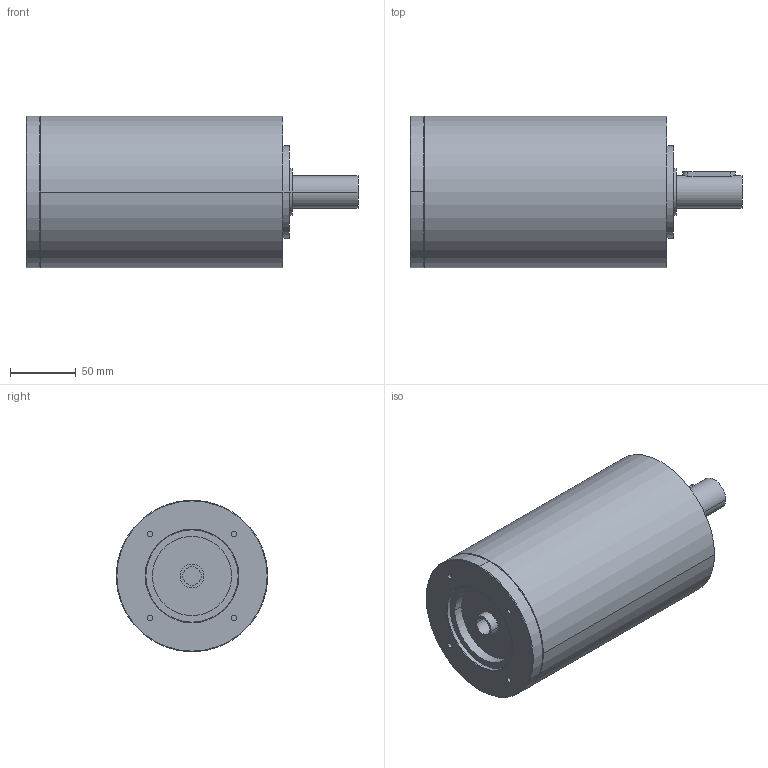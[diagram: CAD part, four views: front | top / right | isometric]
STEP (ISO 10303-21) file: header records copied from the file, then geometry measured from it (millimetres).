
FILE_DESCRIPTION(('CoCreate Modeling STEP Export'),'2;1');
FILE_NAME('GPR125_ig-48-64-80-100-140-196-245-343_25_B14_14_P15.stp','2014-08-26T14:20:51',(''),(''),'CoCreate Modeling STEP processor for AP214 (Solid Model)','CoCreate Modeling 16.00C 25-Feb-2009 (C) Parametric Technology GmbH','');
FILE_SCHEMA(('AUTOMOTIVE_DESIGN { 1 0 10303 214 1 1 1 1 }'));
Length unit declared in the file: millimetre
Products named in the file (2): GPR125_ig-48-64-80-100-140-196-245-343_25_B14_14_P15
Assembly tree (1 placements, depth 2):
  GPR125_ig-48-64-80-100-140-196-245-343_25_B14_14_P15
    GPR125_ig-48-64-80-100-140-196-245-343_25_B14_14_P15
Bounding box: 252 x 115 x 115 mm (x, y, z)
Volume: 2028860.1 mm3; surface area: 103882.9 mm2
Topology: 1 solids, 1 shells, 69 faces, 182 edges, 130 vertices
Faces by surface type: cylinder 38, plane 21, cone 10
Entity records: 1800 total; most frequent: ORIENTED_EDGE 360, CARTESIAN_POINT 338, DIRECTION 226, EDGE_CURVE 180, VERTEX_POINT 130, AXIS2_PLACEMENT_3D 86, EDGE_LOOP 86, FACE_OUTER_BOUND 69
